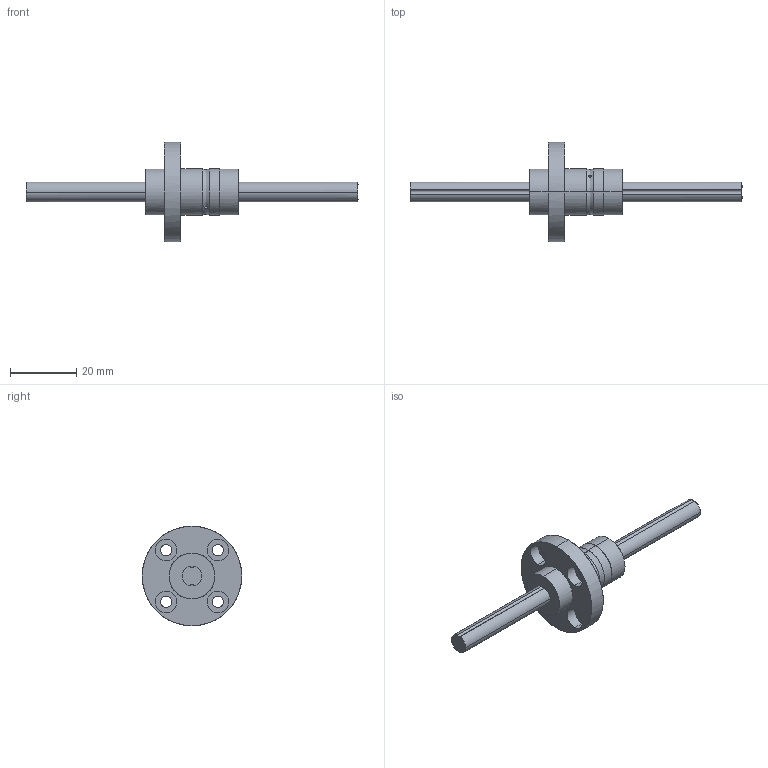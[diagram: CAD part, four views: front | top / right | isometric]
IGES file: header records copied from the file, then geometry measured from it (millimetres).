
Global section: file name: No Iges File Name specified; native system: AutoDesk Inventor R11.0; preprocessor: AutoDesk Inventor Iges Exporter R11.0; author: No Author specified; organization: No Organization specified; date: 20150223.133014; units: millimetre
Bounding box: 100 x 30 x 30 mm (x, y, z)
Surface area: 5635 mm2 (no closed solid volume)
Topology: 0 solids, 0 shells, 54 faces, 382 edges, 382 vertices
Faces by surface type: bspline 54
